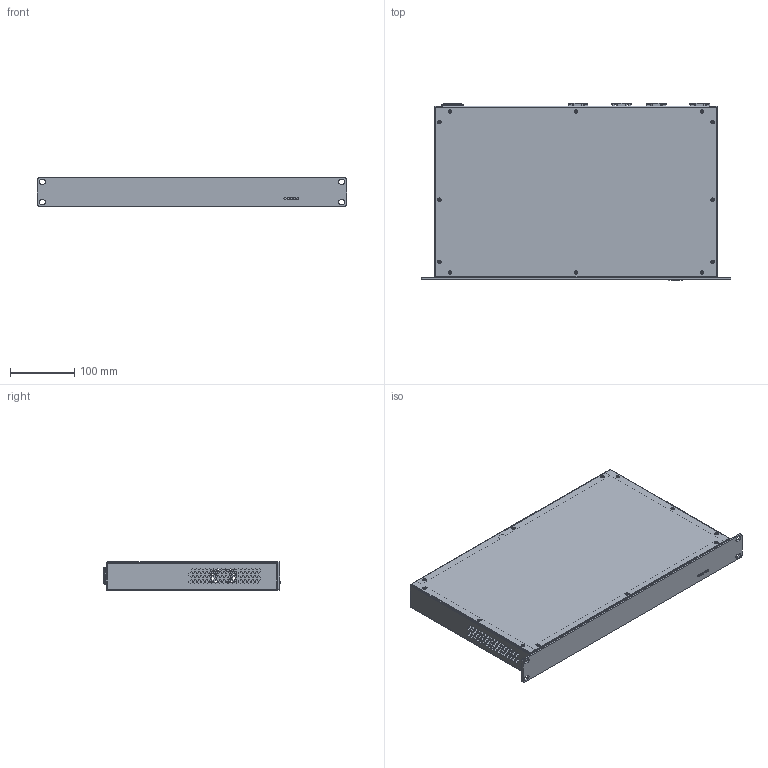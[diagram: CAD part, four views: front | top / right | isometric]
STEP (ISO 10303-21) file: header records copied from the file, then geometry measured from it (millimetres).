
FILE_DESCRIPTION (( 'STEP AP214' ), '1' );
FILE_NAME ('1312100001_DSSIU-4-1U.STEP', '2020-08-20T10:01:31', ( '' ), ( '' ), 'SwSTEP 2.0', 'SolidWorks 2019', '' );
FILE_SCHEMA (( 'AUTOMOTIVE_DESIGN' ));
Length unit declared in the file: millimetre
Products named in the file (1): 1312100001_DSSIU-4-1U
Bounding box: 482.6 x 276.58 x 44 mm (x, y, z)
Surface area: 669882 mm2 (no closed solid volume)
Topology: 0 solids, 83 shells, 1319 faces, 5681 edges, 4307 vertices
Faces by surface type: plane 834, cylinder 234, cone 182, torus 48, bspline 21
Entity records: 78562 total; most frequent: CARTESIAN_POINT 15959, DIRECTION 10053, ORIENTED_EDGE 8828, EDGE_CURVE 5669, VERTEX_POINT 4307, AXIS2_PLACEMENT_3D 3589, VECTOR 2875, LINE 2875
